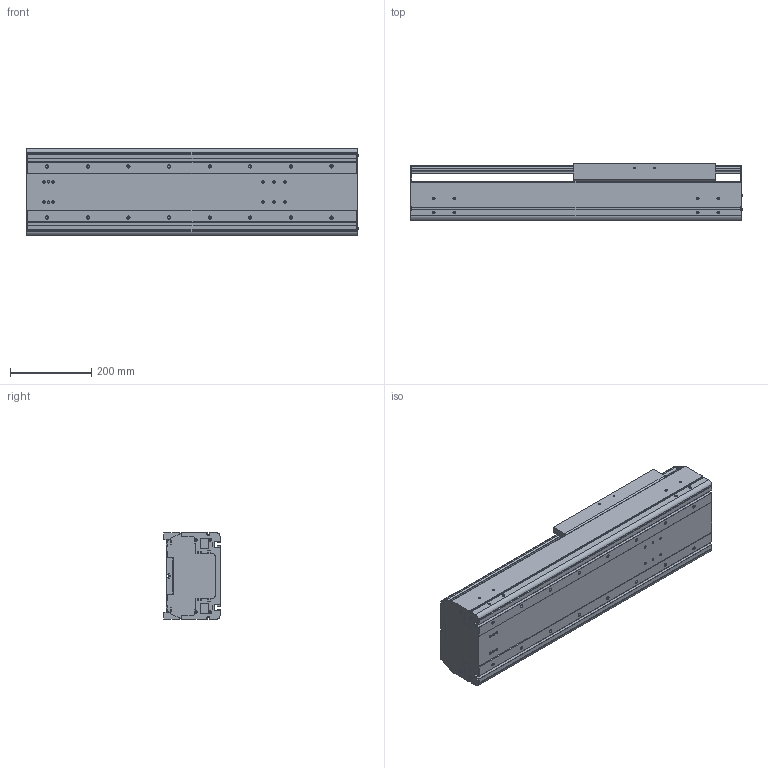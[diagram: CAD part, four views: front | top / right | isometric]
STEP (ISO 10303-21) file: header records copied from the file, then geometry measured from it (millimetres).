
FILE_DESCRIPTION((''),'2;1');
FILE_NAME('BE60G-ST-L_N-35_IGS_PRT','2017-06-18T',(' '),(''),'PRO/ENGINEER BY PARAMETRIC TECHNOLOGY CORPORATION, 2015030','PRO/ENGINEER BY PARAMETRIC TECHNOLOGY CORPORATION, 2015030','');
FILE_SCHEMA(('CONFIG_CONTROL_DESIGN'));
Length unit declared in the file: millimetre
Products named in the file (1): BE60G-ST-L_N-35_IGS_PRT
Bounding box: 817.4 x 140 x 214 mm (x, y, z)
Volume: 7465494.1 mm3; surface area: 1929467.3 mm2
Topology: 2 solids, 114 shells, 1412 faces, 3892 edges, 2546 vertices
Faces by surface type: cylinder 688, plane 584, cone 92, sphere 24, torus 24
Entity records: 46428 total; most frequent: CARTESIAN_POINT 10014, DIRECTION 7738, ORIENTED_EDGE 7168, EDGE_CURVE 3804, AXIS2_PLACEMENT_3D 2855, VERTEX_POINT 2546, VECTOR 2028, LINE 2028
